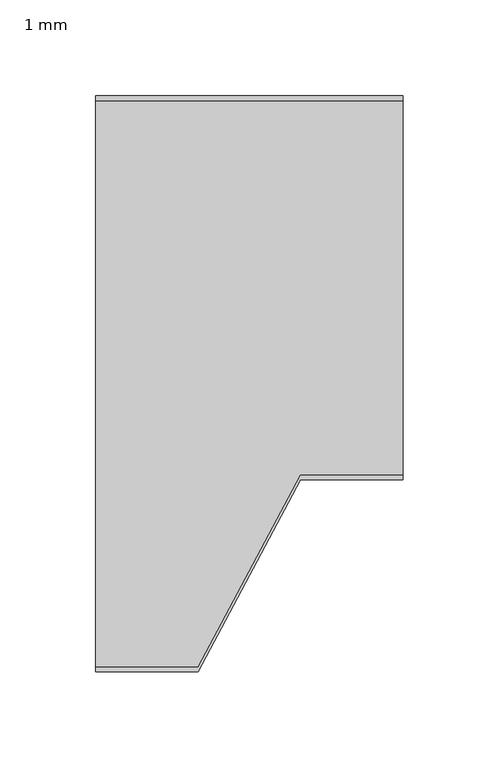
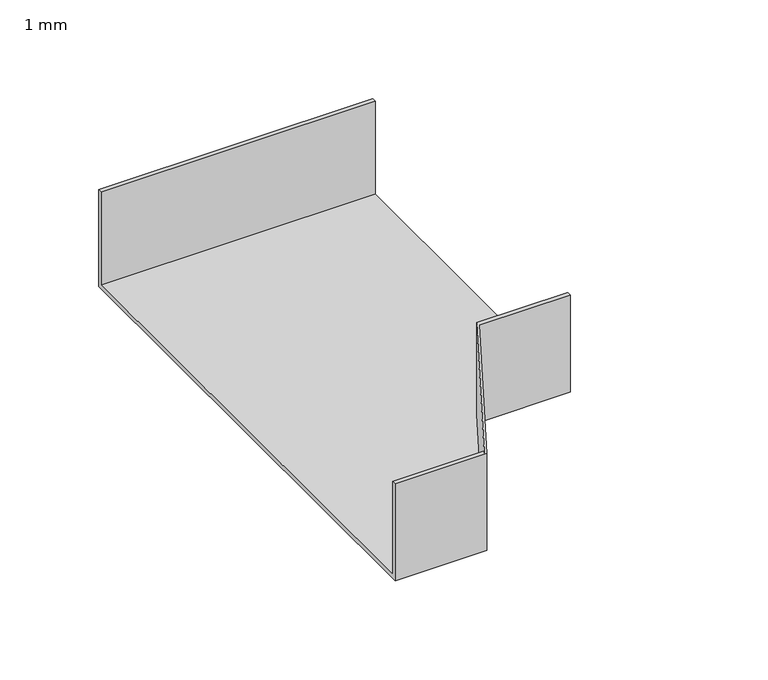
"""IFC4 building model written with IfcOpenShell, lengths in millimetres: cable carrier fitting geometry, BAKS_Redukcja KLIK : 1 mm."""

from ifc_helpers import new_model, si_unit, origin, place, context, project, spatial, faceted_brep, source, transform, mapped, element, save


def cable_carrier_fitting_1_mm_be7f07a0(model_context):
    return source(origin(), model_context, "Body", "Brep", [
        faceted_brep([(0.0, -150.0, -30.0), (0.0, -150.0, 30.0), (0.0, -147.46, 30.0), (0.0, -147.46, -27.46), (0.0, 147.46, -27.46), (0.0, 147.46, 30.0), (0.0, 150.0, 30.0), (0.0, 150.0, -30.0), (160.0, -50.0, -30.0), (160.0, 150.0, -30.0), (160.0, 150.0, 30.0), (160.0, 147.46, 30.0), (160.0, 147.46, -27.46), (160.0, -47.46, -27.46), (160.0, -47.46, 30.0), (160.0, -50.0, 30.0), (53.3333333, -150.0, -30.0), (53.3333333, -150.0, 30.0), (106.6666667, -50.0, 30.0), (106.6666667, -47.46, 30.0), (53.3333333, -147.46, 30.0), (53.3333333, -147.46, -27.46), (106.6666667, -47.46, -27.46), (106.6666667, -50.0, -30.0)], [[[0, 1, 2, 3, 4, 5, 6, 7]], [[8, 9, 10, 11, 12, 13, 14, 15]], [[1, 0, 16, 17]], [[2, 1, 17, 18, 15, 14, 19, 20]], [[3, 2, 20, 21]], [[4, 3, 21, 22, 13, 12]], [[5, 4, 12, 11]], [[6, 5, 11, 10]], [[7, 6, 10, 9]], [[0, 7, 9, 8, 23, 16]], [[8, 15, 18, 23]], [[14, 13, 22, 19]], [[22, 21, 20, 19]], [[16, 23, 18, 17]]]),
    ])


if __name__ == "__main__":
    model = new_model("IFC4")
    model_context = context("Model", 3, world=origin())
    ifc_project = project(units=[si_unit("LENGTHUNIT", "METRE", prefix="MILLI")], contexts=[model_context])
    site = spatial("IfcSite", under=ifc_project)
    building = spatial("IfcBuilding", under=site)
    placement = place(None, origin())
    cable_carrier_fitting_1_mm_shape = cable_carrier_fitting_1_mm_be7f07a0(model_context)
    element("IfcCableCarrierFitting", 1, ObjectType="BAKS_Redukcja KLIK : 1 mm", at=placement, inside=building, context=model_context, shape_type="MappedRepresentation", body=[
        mapped(cable_carrier_fitting_1_mm_shape, transform((0.0, 0.0, 0.0), x_axis=(1.0, 0.0, 0.0), y_axis=(0.0, 1.0, 0.0), z_axis=(0.0, 0.0, 1.0))),
    ])
    save(model, "model.ifc")
